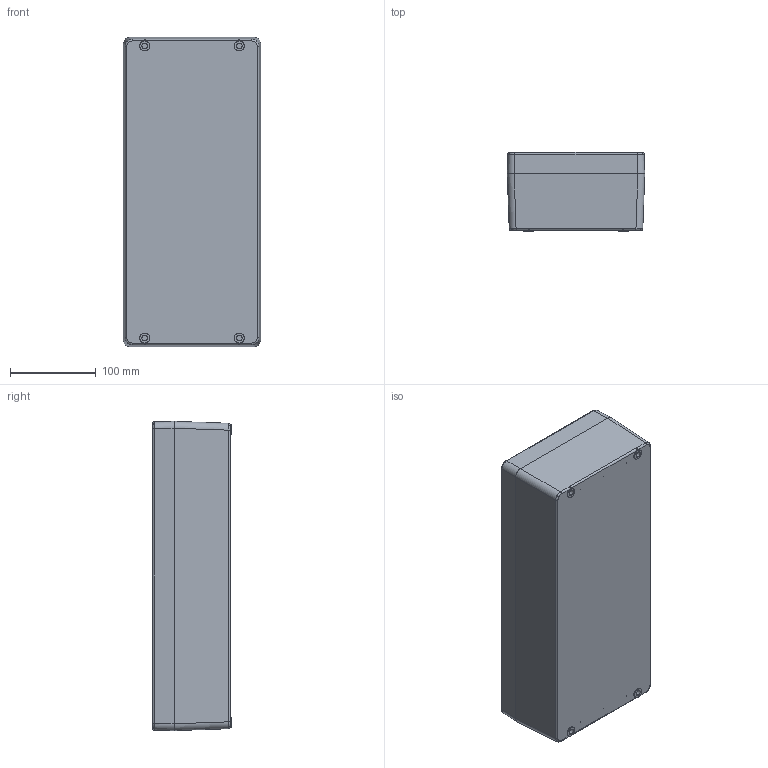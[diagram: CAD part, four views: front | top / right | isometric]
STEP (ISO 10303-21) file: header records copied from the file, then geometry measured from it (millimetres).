
FILE_DESCRIPTION (( 'STEP AP203' ), '1' );
FILE_NAME ('BPG 10.STEP', '2014-06-13T09:08:01', ( '' ), ( '' ), 'SwSTEP 2.0', 'SolidWorks 2014', '' );
FILE_SCHEMA (( 'CONFIG_CONTROL_DESIGN' ));
Length unit declared in the file: millimetre
Products named in the file (3): BPG10 Base; BPG10 Lid; BPG 10
Assembly tree (2 placements, depth 2):
  BPG 10
    BPG10 Base
    BPG10 Lid
Bounding box: 160 x 91.7 x 360 mm (x, y, z)
Volume: 1096064.6 mm3; surface area: 419067.9 mm2
Topology: 2 solids, 2 shells, 317 faces, 856 edges, 534 vertices
Faces by surface type: cylinder 112, plane 93, cone 56, bspline 44, sphere 8, torus 4
Entity records: 10975 total; most frequent: CARTESIAN_POINT 3140, ORIENTED_EDGE 1656, DIRECTION 1484, EDGE_CURVE 828, VERTEX_POINT 534, AXIS2_PLACEMENT_3D 530, LINE 424, VECTOR 424
